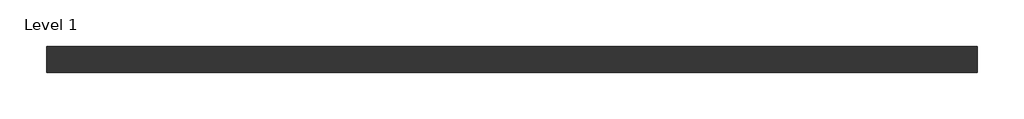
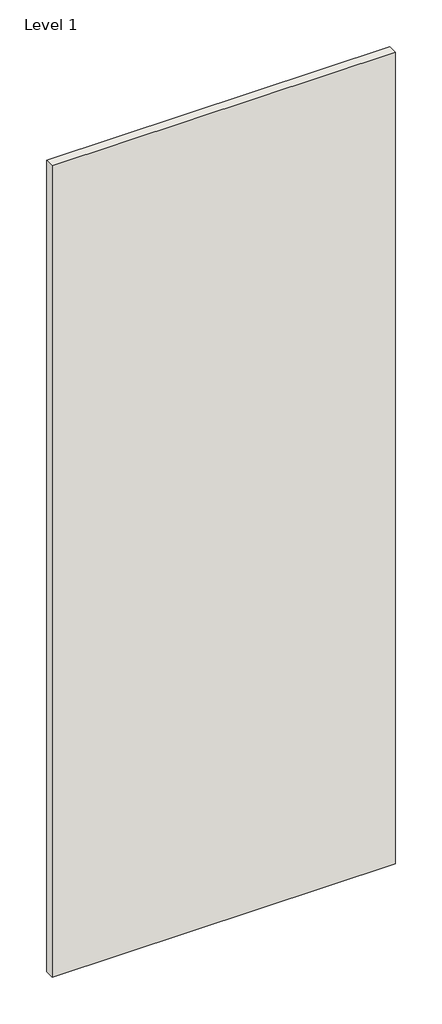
# One storey: 1 wall.
"""IFC4 building model written with IfcOpenShell, lengths in millimetres."""

from ifc_helpers import new_model, si_unit, origin, origin_with_axes, place, context, project, spatial, polyline, outline, extrude, element, save

model = new_model("IFC4")

# Units and contexts
model_context = context("Model", 3, world=origin())
ifc_project = project(units=[si_unit("LENGTHUNIT", "METRE", prefix="MILLI")], contexts=[model_context])

# Site, building, storey
site = spatial("IfcSite", under=ifc_project)
building = spatial("IfcBuilding", under=site)
storey = spatial("IfcBuildingStorey", under=building, Name="Level 1", Elevation=0.0)

# Wall
placement = place(None, origin())
element("IfcWall", 1, ObjectType="RIGIPS - 3.21.30 - EI 15, REI 15", at=placement, inside=storey, context=model_context, shape_type="SweptSolid", body=[
    extrude(outline(polyline([(1000.0, -14.0), (0.0, -14.0), (0.0, 14.0), (1000.0, 14.0), (1000.0, -14.0)])), origin_with_axes(), (0.0, 0.0, 1.0), 2500.0),
])

save(model, "model.ifc")
